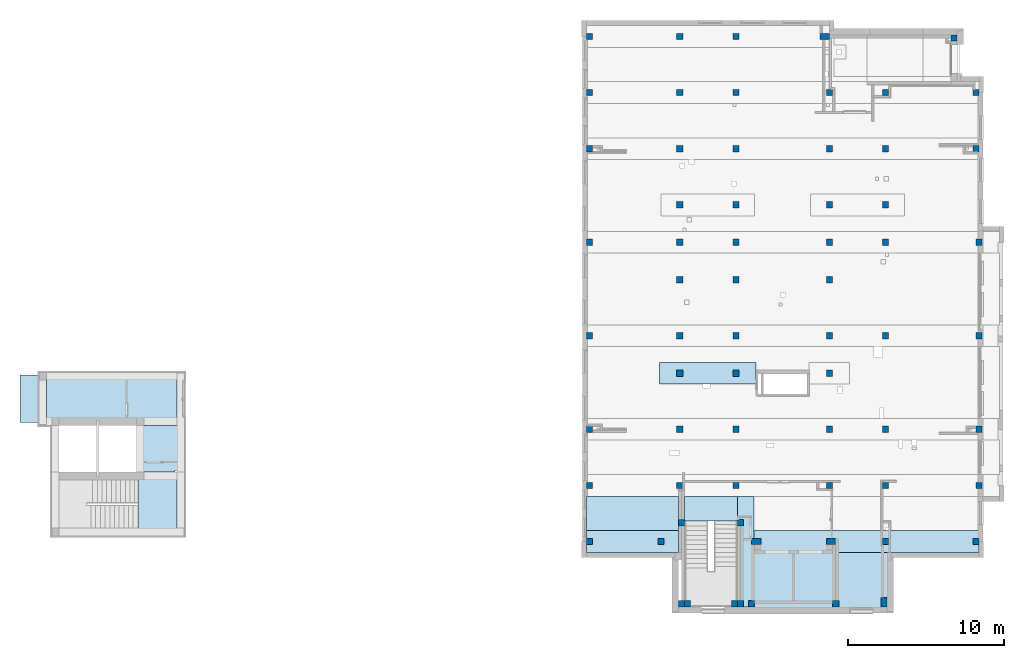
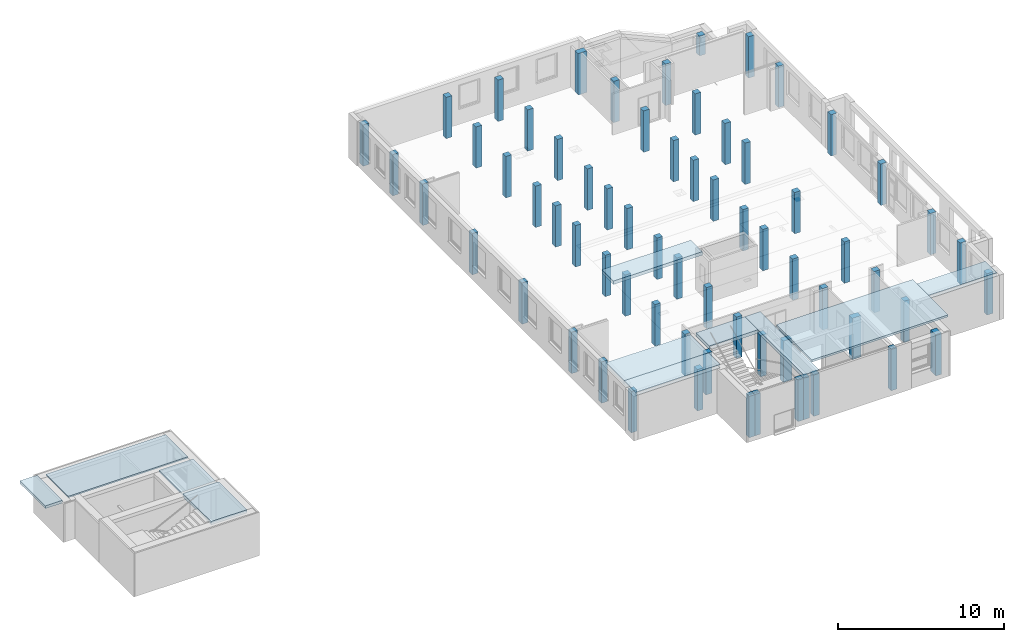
# One storey, part 1 of 27: 66 columns, 11 slabs, 1 opening.
"""IFC4 building model written with IfcOpenShell, lengths in metres."""

from ifc_helpers import new_model, entity, si_unit, converted_unit, derived_unit, frame, frame_2d, origin, origin_with_axes, place, context, subcontext, project, spatial, polyline, rectangle, outline, extrude, material, element, save


model = new_model("IFC4")

# Units and contexts
model_context = context("Model", 3, precision=1e-05, world=origin())
body_context = subcontext(model_context, "Body", "Model", "MODEL_VIEW")
ifc_project = project(units=[si_unit("LENGTHUNIT", "METRE"), si_unit("AREAUNIT", "SQUARE_METRE"), si_unit("VOLUMEUNIT", "CUBIC_METRE"), si_unit("MASSUNIT", "GRAM", prefix="KILO"), converted_unit("PLANEANGLEUNIT", "DEGREE", entity("IfcPlaneAngleMeasure", 0.0174532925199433), si_unit("PLANEANGLEUNIT", "RADIAN"), dimensions=[0, 0, 0, 0, 0, 0, 0]), derived_unit("THERMALTRANSMITTANCEUNIT", [(si_unit("POWERUNIT", "WATT"), 1), (si_unit("THERMODYNAMICTEMPERATUREUNIT", "KELVIN"), -1), (si_unit("LENGTHUNIT", "METRE"), -2)]), derived_unit("VOLUMETRICFLOWRATEUNIT", [(si_unit("LENGTHUNIT", "METRE"), 3), (converted_unit("TIMEUNIT", "hour", entity("IfcTimeMeasure", 3600.0), si_unit("TIMEUNIT", "SECOND"), dimensions=[0, 0, 1, 0, 0, 0, 0]), -1), (si_unit("LENGTHUNIT", "METRE"), -1)])], contexts=[model_context])

# Site, building, storey
site_placement = place(None, origin())
site = spatial("IfcSite", under=ifc_project, at=site_placement, Name="3. ASŘ", CompositionType="ELEMENT")
building_placement = place(site_placement, origin())
building = spatial("IfcBuilding", under=site, at=building_placement, Name="Pavilon C", CompositionType="ELEMENT")
storey_placement = place(building_placement, frame((0.0, 0.0, 10.5)))
storey = spatial("IfcBuildingStorey", under=building, at=storey_placement, Name="Půdorys 4.NP", CompositionType="ELEMENT", Elevation=10.5)

# Columns
ifc_material_1 = material(Name="ZELEZOBETONOVÁ KCE")
column_1_placement = place(storey_placement, frame((44.15, 25.4, -0.1)))
element("IfcColumn", 1, at=column_1_placement, inside=storey, material=ifc_material_1, PredefinedType="COLUMN", context=body_context, shape_type="SweptSolid", body=[
    extrude(rectangle(XDim=0.4, YDim=0.4, at=frame_2d((-0.2, -0.2), x_axis=(-1.0, 0.0))), origin_with_axes(), (0.0, 0.0, 1.0), 3.05),
])
ifc_material_2 = material(Name="ZELEZOBETONOVÁ KCE")
column_2_placement = place(storey_placement, frame((40.55, 25.4, -0.1)))
element("IfcColumn", 2, at=column_2_placement, inside=storey, material=ifc_material_2, PredefinedType="COLUMN", context=body_context, shape_type="SweptSolid", body=[
    extrude(rectangle(XDim=0.4, YDim=0.4, at=frame_2d((-0.2, -0.2), x_axis=(-1.0, 0.0))), origin_with_axes(), (0.0, 0.0, 1.0), 3.05),
])
ifc_material_3 = material(Name="ZELEZOBETONOVÁ KCE")
column_3_placement = place(storey_placement, frame((44.15, 19.4, -0.1)))
element("IfcColumn", 3, at=column_3_placement, inside=storey, material=ifc_material_3, PredefinedType="COLUMN", context=body_context, shape_type="SweptSolid", body=[
    extrude(rectangle(XDim=0.4, YDim=0.4, at=frame_2d((-0.2, -0.2), x_axis=(-1.0, 0.0))), origin_with_axes(), (0.0, 0.0, 1.0), 3.05),
])
ifc_material_4 = material(Name="ZELEZOBETONOVÁ KCE")
column_4_placement = place(storey_placement, frame((40.55, 19.4, -0.1)))
element("IfcColumn", 4, at=column_4_placement, inside=storey, material=ifc_material_4, PredefinedType="COLUMN", context=body_context, shape_type="SweptSolid", body=[
    extrude(rectangle(XDim=0.4, YDim=0.4, at=frame_2d((-0.2, -0.2), x_axis=(-1.0, 0.0))), origin_with_axes(), (0.0, 0.0, 1.0), 3.05),
])
ifc_material_5 = material(Name="ZELEZOBETONOVÁ KCE")
column_5_placement = place(storey_placement, frame((44.15, 13.4, -0.1)))
element("IfcColumn", 5, at=column_5_placement, inside=storey, material=ifc_material_5, PredefinedType="COLUMN", context=body_context, shape_type="SweptSolid", body=[
    extrude(rectangle(XDim=0.4, YDim=0.4, at=frame_2d((-0.2, -0.2), x_axis=(-1.0, 0.0))), origin_with_axes(), (0.0, 0.0, 1.0), 3.05),
])
ifc_material_6 = material(Name="ZELEZOBETONOVÁ KCE")
column_6_placement = place(storey_placement, frame((40.55, 13.4, -0.1)))
element("IfcColumn", 6, at=column_6_placement, inside=storey, material=ifc_material_6, PredefinedType="COLUMN", context=body_context, shape_type="SweptSolid", body=[
    extrude(rectangle(XDim=0.4, YDim=0.4, at=frame_2d((-0.2, -0.2), x_axis=(-1.0, 0.0))), origin_with_axes(), (0.0, 0.0, 1.0), 3.05),
])
ifc_material_7 = material(Name="ZELEZOBETONOVÁ KCE")
column_7_placement = place(storey_placement, frame((44.15, 7.39999999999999, -0.1)))
element("IfcColumn", 7, at=column_7_placement, inside=storey, material=ifc_material_7, PredefinedType="COLUMN", context=body_context, shape_type="SweptSolid", body=[
    extrude(rectangle(XDim=0.4, YDim=0.4, at=frame_2d((-0.2, -0.2), x_axis=(-1.0, 0.0))), origin_with_axes(), (0.0, 0.0, 1.0), 3.05),
])
ifc_material_8 = material(Name="ZELEZOBETONOVÁ KCE")
column_8_placement = place(storey_placement, frame((40.55, 7.39999999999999, -0.1)))
element("IfcColumn", 8, at=column_8_placement, inside=storey, material=ifc_material_8, PredefinedType="COLUMN", context=body_context, shape_type="SweptSolid", body=[
    extrude(rectangle(XDim=0.4, YDim=0.4, at=frame_2d((-0.2, -0.2), x_axis=(-1.0, 0.0))), origin_with_axes(), (0.0, 0.0, 1.0), 3.05),
])
ifc_material_9 = material(Name="ZELEZOBETONOVÁ KCE")
column_9_placement = place(storey_placement, frame((34.55, 7.4, -0.1)))
element("IfcColumn", 9, at=column_9_placement, inside=storey, material=ifc_material_9, PredefinedType="COLUMN", context=body_context, shape_type="SweptSolid", body=[
    extrude(rectangle(XDim=0.4, YDim=0.4, at=frame_2d((-0.2, -0.2), x_axis=(-1.0, 0.0))), origin_with_axes(), (0.0, 0.0, 1.0), 3.05),
])
ifc_material_10 = material(Name="ZELEZOBETONOVÁ KCE")
column_10_placement = place(storey_placement, frame((30.95, 7.4, -0.1)))
element("IfcColumn", 10, at=column_10_placement, inside=storey, material=ifc_material_10, PredefinedType="COLUMN", context=body_context, shape_type="SweptSolid", body=[
    extrude(rectangle(XDim=0.4, YDim=0.4, at=frame_2d((-0.2, -0.2), x_axis=(-1.0, 0.0))), origin_with_axes(), (0.0, 0.0, 1.0), 3.05),
])
ifc_material_11 = material(Name="ZELEZOBETONOVÁ KCE")
column_11_placement = place(storey_placement, frame((34.55, 13.4, -0.1)))
element("IfcColumn", 11, at=column_11_placement, inside=storey, material=ifc_material_11, PredefinedType="COLUMN", context=body_context, shape_type="SweptSolid", body=[
    extrude(rectangle(XDim=0.4, YDim=0.4, at=frame_2d((-0.2, -0.2), x_axis=(-1.0, 0.0))), origin_with_axes(), (0.0, 0.0, 1.0), 3.05),
])
ifc_material_12 = material(Name="ZELEZOBETONOVÁ KCE")
column_12_placement = place(storey_placement, frame((30.95, 13.4, -0.1)))
element("IfcColumn", 12, at=column_12_placement, inside=storey, material=ifc_material_12, PredefinedType="COLUMN", context=body_context, shape_type="SweptSolid", body=[
    extrude(rectangle(XDim=0.4, YDim=0.4, at=frame_2d((-0.2, -0.2), x_axis=(-1.0, 0.0))), origin_with_axes(), (0.0, 0.0, 1.0), 3.05),
])
ifc_material_13 = material(Name="ZELEZOBETONOVÁ KCE")
column_13_placement = place(storey_placement, frame((34.55, 19.4, -0.1)))
element("IfcColumn", 13, at=column_13_placement, inside=storey, material=ifc_material_13, PredefinedType="COLUMN", context=body_context, shape_type="SweptSolid", body=[
    extrude(rectangle(XDim=0.4, YDim=0.4, at=frame_2d((-0.2, -0.2), x_axis=(-1.0, 0.0))), origin_with_axes(), (0.0, 0.0, 1.0), 3.05),
])
ifc_material_14 = material(Name="ZELEZOBETONOVÁ KCE")
column_14_placement = place(storey_placement, frame((30.95, 19.4, -0.1)))
element("IfcColumn", 14, at=column_14_placement, inside=storey, material=ifc_material_14, PredefinedType="COLUMN", context=body_context, shape_type="SweptSolid", body=[
    extrude(rectangle(XDim=0.4, YDim=0.4, at=frame_2d((-0.2, -0.2), x_axis=(-1.0, 0.0))), origin_with_axes(), (0.0, 0.0, 1.0), 3.05),
])
ifc_material_15 = material(Name="ZELEZOBETONOVÁ KCE")
column_15_placement = place(storey_placement, frame((34.55, 25.4, -0.1)))
element("IfcColumn", 15, at=column_15_placement, inside=storey, material=ifc_material_15, PredefinedType="COLUMN", context=body_context, shape_type="SweptSolid", body=[
    extrude(rectangle(XDim=0.4, YDim=0.4, at=frame_2d((-0.2, -0.2), x_axis=(-1.0, 0.0))), origin_with_axes(), (0.0, 0.0, 1.0), 3.05),
])
ifc_material_16 = material(Name="ZELEZOBETONOVÁ KCE")
column_16_placement = place(storey_placement, frame((30.95, 25.4, -0.1)))
element("IfcColumn", 16, at=column_16_placement, inside=storey, material=ifc_material_16, PredefinedType="COLUMN", context=body_context, shape_type="SweptSolid", body=[
    extrude(rectangle(XDim=0.4, YDim=0.4, at=frame_2d((-0.2, -0.2), x_axis=(-1.0, 0.0))), origin_with_axes(), (0.0, 0.0, 1.0), 3.05),
])
ifc_material_17 = material(Name="ZELEZOBETONOVÁ KCE")
column_17_placement = place(storey_placement, frame((34.55, 29.0, -0.1)))
element("IfcColumn", 17, at=column_17_placement, inside=storey, material=ifc_material_17, PredefinedType="COLUMN", context=body_context, shape_type="SweptSolid", body=[
    extrude(rectangle(XDim=0.4, YDim=0.4, at=frame_2d((-0.2, -0.2), x_axis=(-1.0, 0.0))), origin_with_axes(), (0.0, 0.0, 1.0), 3.05),
])
ifc_material_18 = material(Name="ZELEZOBETONOVÁ KCE")
column_18_placement = place(storey_placement, frame((30.95, 29.0, -0.1)))
element("IfcColumn", 18, at=column_18_placement, inside=storey, material=ifc_material_18, PredefinedType="COLUMN", context=body_context, shape_type="SweptSolid", body=[
    extrude(rectangle(XDim=0.4, YDim=0.4, at=frame_2d((-0.2, -0.2), x_axis=(-1.0, 0.0))), origin_with_axes(), (0.0, 0.0, 1.0), 3.05),
])
ifc_material_19 = material(Name="ZELEZOBETONOVÁ KCE")
column_19_placement = place(storey_placement, frame((34.55, 32.6, -0.1)))
element("IfcColumn", 19, at=column_19_placement, inside=storey, material=ifc_material_19, PredefinedType="COLUMN", context=body_context, shape_type="SweptSolid", body=[
    extrude(rectangle(XDim=0.4, YDim=0.4, at=frame_2d((-0.2, -0.2), x_axis=(-1.0, 0.0))), origin_with_axes(), (0.0, 0.0, 1.0), 3.05),
])
ifc_material_20 = material(Name="ZELEZOBETONOVÁ KCE")
column_20_placement = place(storey_placement, frame((30.95, 32.6, -0.1)))
element("IfcColumn", 20, at=column_20_placement, inside=storey, material=ifc_material_20, PredefinedType="COLUMN", context=body_context, shape_type="SweptSolid", body=[
    extrude(rectangle(XDim=0.4, YDim=0.4, at=frame_2d((-0.2, -0.2), x_axis=(-1.0, 0.0))), origin_with_axes(), (0.0, 0.0, 1.0), 3.05),
])
ifc_material_21 = material(Name="ZELEZOBETONOVÁ KCE")
column_21_placement = place(storey_placement, frame((29.75, 0.199999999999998, -0.1)))
element("IfcColumn", 21, at=column_21_placement, inside=storey, material=ifc_material_21, PredefinedType="COLUMN", context=body_context, shape_type="SweptSolid", body=[
    extrude(rectangle(XDim=0.4, YDim=0.4, at=frame_2d((-0.2, -0.2), x_axis=(-1.0, 1.4210854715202e-16))), origin_with_axes(), (0.0, 0.0, 1.0), 3.05),
])
ifc_material_22 = material(Name="ZELEZOBETONOVÁ KCE")
column_22_placement = place(storey_placement, frame((30.95, 17.0, -0.1)))
element("IfcColumn", 22, at=column_22_placement, inside=storey, material=ifc_material_22, PredefinedType="COLUMN", context=body_context, shape_type="SweptSolid", body=[
    extrude(rectangle(XDim=0.4, YDim=0.4, at=frame_2d((-0.2, -0.2), x_axis=(-1.0, 0.0))), origin_with_axes(), (0.0, 0.0, 1.0), 3.05),
])
ifc_material_23 = material(Name="ZELEZOBETONOVÁ KCE")
column_23_placement = place(storey_placement, frame((30.95, 21.8, -0.1)))
element("IfcColumn", 23, at=column_23_placement, inside=storey, material=ifc_material_23, PredefinedType="COLUMN", context=body_context, shape_type="SweptSolid", body=[
    extrude(rectangle(XDim=0.4, YDim=0.4, at=frame_2d((-0.2, -0.2), x_axis=(-1.0, 0.0))), origin_with_axes(), (0.0, 0.0, 1.0), 3.05),
])
ifc_material_24 = material(Name="ZELEZOBETONOVÁ KCE")
column_24_placement = place(storey_placement, frame((34.55, 11.0, -0.1)))
element("IfcColumn", 24, at=column_24_placement, inside=storey, material=ifc_material_24, PredefinedType="COLUMN", context=body_context, shape_type="SweptSolid", body=[
    extrude(rectangle(XDim=0.4, YDim=0.4, at=frame_2d((-0.2, -0.2), x_axis=(-1.0, 0.0))), origin_with_axes(), (0.0, 0.0, 1.0), 3.05),
])
ifc_material_25 = material(Name="ZELEZOBETONOVÁ KCE")
column_25_placement = place(storey_placement, frame((34.55, 17.0, -0.1)))
element("IfcColumn", 25, at=column_25_placement, inside=storey, material=ifc_material_25, PredefinedType="COLUMN", context=body_context, shape_type="SweptSolid", body=[
    extrude(rectangle(XDim=0.4, YDim=0.4, at=frame_2d((-0.2, -0.2), x_axis=(-1.0, 0.0))), origin_with_axes(), (0.0, 0.0, 1.0), 3.05),
])
ifc_material_26 = material(Name="ZELEZOBETONOVÁ KCE")
column_26_placement = place(storey_placement, frame((34.55, 21.8, -0.1)))
element("IfcColumn", 26, at=column_26_placement, inside=storey, material=ifc_material_26, PredefinedType="COLUMN", context=body_context, shape_type="SweptSolid", body=[
    extrude(rectangle(XDim=0.4, YDim=0.4, at=frame_2d((-0.2, -0.2), x_axis=(-1.0, 0.0))), origin_with_axes(), (0.0, 0.0, 1.0), 3.05),
])
ifc_material_27 = material(Name="ZELEZOBETONOVÁ KCE")
column_27_placement = place(storey_placement, frame((40.55, 11.0, -0.1)))
element("IfcColumn", 27, at=column_27_placement, inside=storey, material=ifc_material_27, PredefinedType="COLUMN", context=body_context, shape_type="SweptSolid", body=[
    extrude(rectangle(XDim=0.4, YDim=0.4, at=frame_2d((-0.2, -0.2), x_axis=(-1.0, 0.0))), origin_with_axes(), (0.0, 0.0, 1.0), 3.05),
])
ifc_material_28 = material(Name="ZELEZOBETONOVÁ KCE")
column_28_placement = place(storey_placement, frame((40.55, 17.0, -0.1)))
element("IfcColumn", 28, at=column_28_placement, inside=storey, material=ifc_material_28, PredefinedType="COLUMN", context=body_context, shape_type="SweptSolid", body=[
    extrude(rectangle(XDim=0.4, YDim=0.4, at=frame_2d((-0.2, -0.2), x_axis=(-1.0, 0.0))), origin_with_axes(), (0.0, 0.0, 1.0), 3.05),
])
ifc_material_29 = material(Name="ZELEZOBETONOVÁ KCE")
column_29_placement = place(storey_placement, frame((40.55, 21.8, -0.1)))
element("IfcColumn", 29, at=column_29_placement, inside=storey, material=ifc_material_29, PredefinedType="COLUMN", context=body_context, shape_type="SweptSolid", body=[
    extrude(rectangle(XDim=0.4, YDim=0.4, at=frame_2d((-0.2, -0.2), x_axis=(-1.0, 0.0))), origin_with_axes(), (0.0, 0.0, 1.0), 3.05),
])
ifc_material_30 = material(Name="ZELEZOBETONOVÁ KCE")
column_30_placement = place(storey_placement, frame((44.15, 21.8, -0.1)))
element("IfcColumn", 30, at=column_30_placement, inside=storey, material=ifc_material_30, PredefinedType="COLUMN", context=body_context, shape_type="SweptSolid", body=[
    extrude(rectangle(XDim=0.4, YDim=0.4, at=frame_2d((-0.2, -0.2), x_axis=(-1.0, 0.0))), origin_with_axes(), (0.0, 0.0, 1.0), 3.05),
])
ifc_material_31 = material(Name="ZELEZOBETONOVÁ KCE")
column_31_placement = place(storey_placement, frame((30.95, 11.0, -0.1)))
element("IfcColumn", 31, at=column_31_placement, inside=storey, material=ifc_material_31, PredefinedType="COLUMN", context=body_context, shape_type="SweptSolid", body=[
    extrude(rectangle(XDim=0.4, YDim=0.4, at=frame_2d((-0.2, -0.2), x_axis=(-1.0, 0.0))), origin_with_axes(), (0.0, 0.0, 1.0), 3.05),
])
ifc_material_32 = material(Name="ZELEZOBETONOVÁ KCE")
column_32_placement = place(storey_placement, frame((40.55, 29.0, -0.1)))
element("IfcColumn", 32, at=column_32_placement, inside=storey, material=ifc_material_32, PredefinedType="COLUMN", context=body_context, shape_type="SweptSolid", body=[
    extrude(rectangle(XDim=0.4, YDim=0.4, at=frame_2d((-0.2, -0.2), x_axis=(-1.0, 0.0))), origin_with_axes(), (0.0, 0.0, 1.0), 3.05),
])
ifc_material_33 = material(Name="ZELEZOBETONOVÁ KCE")
column_33_placement = place(storey_placement, frame((49.95, 0.19999999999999, -0.1)))
element("IfcColumn", 33, at=column_33_placement, inside=storey, material=ifc_material_33, PredefinedType="COLUMN", context=body_context, shape_type="SweptSolid", body=[
    extrude(rectangle(XDim=0.4, YDim=0.4, at=frame_2d((-0.2, -0.2), x_axis=(-1.0, 7.105427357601e-17))), origin_with_axes(), (0.0, 0.0, 1.0), 3.05),
])
ifc_material_34 = material(Name="ZELEZOBETONOVÁ KCE")
column_34_placement = place(storey_placement, frame((49.95, 29.0, -0.1)))
element("IfcColumn", 34, at=column_34_placement, inside=storey, material=ifc_material_34, PredefinedType="COLUMN", context=body_context, shape_type="SweptSolid", body=[
    extrude(rectangle(XDim=0.4, YDim=0.4, at=frame_2d((-0.2, -0.2), x_axis=(-1.0, 0.0))), origin_with_axes(), (0.0, 0.0, 1.0), 3.05),
])
ifc_material_35 = material(Name="ZELEZOBETONOVÁ KCE")
column_35_placement = place(storey_placement, frame((30.95, 3.8, -0.1)))
element("IfcColumn", 35, at=column_35_placement, inside=storey, material=ifc_material_35, PredefinedType="COLUMN", context=body_context, shape_type="SweptSolid", body=[
    extrude(rectangle(XDim=0.4, YDim=0.4, at=frame_2d((-0.2, -0.2), x_axis=(-1.0, 0.0))), origin_with_axes(), (0.0, 0.0, 1.0), 3.05),
])
ifc_material_36 = material(Name="ZELEZOBETONOVÁ KCE")
column_36_placement = place(storey_placement, frame((34.55, 3.8, -0.1)))
element("IfcColumn", 36, at=column_36_placement, inside=storey, material=ifc_material_36, PredefinedType="COLUMN", context=body_context, shape_type="SweptSolid", body=[
    extrude(rectangle(XDim=0.4, YDim=0.4, at=frame_2d((-0.2, -0.2), x_axis=(-1.0, 0.0))), origin_with_axes(), (0.0, 0.0, 1.0), 3.05),
])
ifc_material_37 = material(Name="ZELEZOBETONOVÁ KCE")
column_37_placement = place(storey_placement, frame((40.55, 3.79999999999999, -0.1)))
element("IfcColumn", 37, at=column_37_placement, inside=storey, material=ifc_material_37, PredefinedType="COLUMN", context=body_context, shape_type="SweptSolid", body=[
    extrude(rectangle(XDim=0.4, YDim=0.4, at=frame_2d((-0.2, -0.2), x_axis=(-1.0, 0.0))), origin_with_axes(), (0.0, 0.0, 1.0), 3.05),
])
ifc_material_38 = material(Name="ZELEZOBETONOVÁ KCE")
column_38_placement = place(storey_placement, frame((44.15, 3.79999999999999, -0.1)))
element("IfcColumn", 38, at=column_38_placement, inside=storey, material=ifc_material_38, PredefinedType="COLUMN", context=body_context, shape_type="SweptSolid", body=[
    extrude(rectangle(XDim=0.4, YDim=0.4, at=frame_2d((-0.2, -0.2), x_axis=(-1.0, 0.0))), origin_with_axes(), (0.0, 0.0, 1.0), 3.05),
])
ifc_material_39 = material(Name="ZELEZOBETONOVÁ KCE")
column_39_placement = place(storey_placement, frame((40.35, 32.6, -0.1)))
element("IfcColumn", 39, at=column_39_placement, inside=storey, material=ifc_material_39, PredefinedType="COLUMN", context=body_context, shape_type="SweptSolid", body=[
    extrude(rectangle(XDim=0.599999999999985, YDim=0.4, at=frame_2d((-0.299999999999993, -0.2), x_axis=(-1.0, 0.0))), origin_with_axes(), (0.0, 0.0, 1.0), 3.05),
])
ifc_material_40 = material(Name="ZELEZOBETONOVÁ KCE")
column_40_placement = place(storey_placement, frame((35.95, 0.199999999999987, -0.1)))
element("IfcColumn", 40, at=column_40_placement, inside=storey, material=ifc_material_40, PredefinedType="COLUMN", context=body_context, shape_type="SweptSolid", body=[
    extrude(rectangle(XDim=0.6, YDim=0.4, at=frame_2d((-0.3, -0.2), x_axis=(-1.0, 0.0))), origin_with_axes(), (0.0, 0.0, 1.0), 3.05),
])
ifc_material_41 = material(Name="ZELEZOBETONOVÁ KCE")
column_41_placement = place(storey_placement, frame((40.75, 0.199999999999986, -0.1)))
element("IfcColumn", 41, at=column_41_placement, inside=storey, material=ifc_material_41, PredefinedType="COLUMN", context=body_context, shape_type="SweptSolid", body=[
    extrude(rectangle(XDim=0.6, YDim=0.4, at=frame_2d((-0.3, -0.2), x_axis=(-1.0, 0.0))), origin_with_axes(), (0.0, 0.0, 1.0), 3.05),
])
ifc_material_42 = material(Name="ZELEZOBETONOVÁ KCE")
column_42_placement = place(storey_placement, frame((44.15, 0.19999999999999, -0.1)))
element("IfcColumn", 42, at=column_42_placement, inside=storey, material=ifc_material_42, PredefinedType="COLUMN", context=body_context, shape_type="SweptSolid", body=[
    extrude(rectangle(XDim=0.4, YDim=0.4, at=frame_2d((-0.2, -0.2), x_axis=(-1.0, 1.4210854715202e-16))), origin_with_axes(), (0.0, 0.0, 1.0), 3.05),
])
ifc_material_43 = material(Name="ZELEZOBETONOVÁ KCE")
column_43_placement = place(storey_placement, frame((31.05, 1.4, -0.1)))
element("IfcColumn", 43, at=column_43_placement, inside=storey, material=ifc_material_43, PredefinedType="COLUMN", context=body_context, shape_type="SweptSolid", body=[
    extrude(rectangle(XDim=0.4, YDim=0.4, at=frame_2d((-0.2, -0.2), x_axis=(-1.0, 0.0))), origin_with_axes(), (0.0, 0.0, 1.0), 3.05),
])
ifc_material_44 = material(Name="ZELEZOBETONOVÁ KCE")
column_44_placement = place(storey_placement, frame((34.85, 1.4, -0.1)))
element("IfcColumn", 44, at=column_44_placement, inside=storey, material=ifc_material_44, PredefinedType="COLUMN", context=body_context, shape_type="SweptSolid", body=[
    extrude(rectangle(XDim=0.4, YDim=0.4, at=frame_2d((-0.2, -0.2), x_axis=(-1.0, 0.0))), origin_with_axes(), (0.0, 0.0, 1.0), 3.05),
])
ifc_material_45 = material(Name="ZELEZOBETONOVÁ KCE")
column_45_placement = place(storey_placement, frame((43.65, -3.6, -0.1)))
element("IfcColumn", 45, at=column_45_placement, inside=storey, material=ifc_material_45, PredefinedType="COLUMN", context=body_context, shape_type="SweptSolid", body=[
    extrude(rectangle(XDim=0.6, YDim=0.4, at=frame_2d((0.2, -0.3), x_axis=(0.0, -1.0))), origin_with_axes(), (0.0, 0.0, 1.0), 3.05),
])
ifc_material_46 = material(Name="ZELEZOBETONOVÁ KCE")
column_46_placement = place(storey_placement, frame((35.55, -3.8, -0.1)))
element("IfcColumn", 46, at=column_46_placement, inside=storey, material=ifc_material_46, PredefinedType="COLUMN", context=body_context, shape_type="SweptSolid", body=[
    extrude(rectangle(XDim=0.4, YDim=0.4, at=frame_2d((-0.2, -0.2), x_axis=(-1.0, 1.13686837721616e-15))), origin_with_axes(), (0.0, 0.0, 1.0), 3.05),
])
ifc_material_47 = material(Name="ZELEZOBETONOVÁ KCE")
column_47_placement = place(storey_placement, frame((34.85, -3.79999999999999, -0.1)))
element("IfcColumn", 47, at=column_47_placement, inside=storey, material=ifc_material_47, PredefinedType="COLUMN", context=body_context, shape_type="SweptSolid", body=[
    extrude(rectangle(XDim=0.4, YDim=0.4, at=frame_2d((-0.2, -0.2), x_axis=(-1.0, 1.13686837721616e-15))), origin_with_axes(), (0.0, 0.0, 1.0), 3.05),
])
ifc_material_48 = material(Name="ZELEZOBETONOVÁ KCE")
column_48_placement = place(storey_placement, frame((34.45, -3.79999999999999, -0.1)))
element("IfcColumn", 48, at=column_48_placement, inside=storey, material=ifc_material_48, PredefinedType="COLUMN", context=body_context, shape_type="SweptSolid", body=[
    extrude(rectangle(XDim=0.4, YDim=0.4, at=frame_2d((-0.2, -0.2), x_axis=(-1.0, 1.13686837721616e-15))), origin_with_axes(), (0.0, 0.0, 1.0), 3.05),
])
ifc_material_49 = material(Name="ZELEZOBETONOVÁ KCE")
column_49_placement = place(storey_placement, frame((40.95, -3.80000000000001, -0.1)))
element("IfcColumn", 49, at=column_49_placement, inside=storey, material=ifc_material_49, PredefinedType="COLUMN", context=body_context, shape_type="SweptSolid", body=[
    extrude(rectangle(XDim=0.4, YDim=0.399999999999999, at=frame_2d((-0.2, -0.2), x_axis=(-1.0, 0.0))), origin_with_axes(), (0.0, 0.0, 1.0), 3.05),
])
ifc_material_50 = material(Name="ZELEZOBETONOVÁ KCE")
column_50_placement = place(storey_placement, frame((31.45, -3.8, -0.1)))
element("IfcColumn", 50, at=column_50_placement, inside=storey, material=ifc_material_50, PredefinedType="COLUMN", context=body_context, shape_type="SweptSolid", body=[
    extrude(rectangle(XDim=0.4, YDim=0.4, at=frame_2d((-0.2, -0.2), x_axis=(-1.0, 1.13686837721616e-15))), origin_with_axes(), (0.0, 0.0, 1.0), 3.05),
])
ifc_material_51 = material(Name="ZELEZOBETONOVÁ KCE")
column_51_placement = place(storey_placement, frame((31.05, -3.79999999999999, -0.1)))
element("IfcColumn", 51, at=column_51_placement, inside=storey, material=ifc_material_51, PredefinedType="COLUMN", context=body_context, shape_type="SweptSolid", body=[
    extrude(rectangle(XDim=0.4, YDim=0.4, at=frame_2d((-0.2, -0.2), x_axis=(-1.0, 1.13686837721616e-15))), origin_with_axes(), (0.0, 0.0, 1.0), 3.05),
])
ifc_material_52 = material(Name="ZELEZOBETONOVÁ KCE")
column_52_placement = place(storey_placement, frame((48.55, 32.5, -0.1)))
element("IfcColumn", 52, at=column_52_placement, inside=storey, material=ifc_material_52, PredefinedType="COLUMN", context=body_context, shape_type="SweptSolid", body=[
    extrude(rectangle(XDim=0.4, YDim=0.4, at=frame_2d((-0.2, -0.2), x_axis=(-1.0, 0.0))), origin_with_axes(), (0.0, 0.0, 1.0), 1.45),
])
ifc_material_53 = material(Name="ZELEZOBETONOVÁ KCE")
column_53_placement = place(storey_placement, frame((44.15, 29.0, -0.1)))
element("IfcColumn", 53, at=column_53_placement, inside=storey, material=ifc_material_53, PredefinedType="COLUMN", context=body_context, shape_type="SweptSolid", body=[
    extrude(rectangle(XDim=0.4, YDim=0.4, at=frame_2d((-0.2, -0.2), x_axis=(-1.0, 0.0))), origin_with_axes(), (0.0, 0.0, 1.0), 3.05),
])
ifc_material_54 = material(Name="ZELEZOBETONOVÁ KCE")
column_54_placement = place(storey_placement, frame((25.15, 32.6, -0.1)))
element("IfcColumn", 54, at=column_54_placement, inside=storey, material=ifc_material_54, PredefinedType="COLUMN", context=body_context, shape_type="SweptSolid", body=[
    extrude(rectangle(XDim=0.399999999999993, YDim=0.4, at=frame_2d((-0.199999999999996, -0.2), x_axis=(-1.0, 0.0))), origin_with_axes(), (0.0, 0.0, 1.0), 3.05),
])
ifc_material_55 = material(Name="ZELEZOBETONOVÁ KCE")
column_55_placement = place(storey_placement, frame((25.15, 13.4, -0.1)))
element("IfcColumn", 55, at=column_55_placement, inside=storey, material=ifc_material_55, PredefinedType="COLUMN", context=body_context, shape_type="SweptSolid", body=[
    extrude(rectangle(XDim=0.4, YDim=0.4, at=frame_2d((-0.2, -0.2), x_axis=(-1.0, 0.0))), origin_with_axes(), (0.0, 0.0, 1.0), 3.05),
])
ifc_material_56 = material(Name="ZELEZOBETONOVÁ KCE")
column_56_placement = place(storey_placement, frame((25.15, 3.8, -0.1)))
element("IfcColumn", 56, at=column_56_placement, inside=storey, material=ifc_material_56, PredefinedType="COLUMN", context=body_context, shape_type="SweptSolid", body=[
    extrude(rectangle(XDim=0.4, YDim=0.4, at=frame_2d((-0.2, -0.2), x_axis=(-1.0, 0.0))), origin_with_axes(), (0.0, 0.0, 1.0), 3.05),
])
ifc_material_57 = material(Name="ZELEZOBETONOVÁ KCE")
column_57_placement = place(storey_placement, frame((25.15, 0.199999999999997, -0.1)))
element("IfcColumn", 57, at=column_57_placement, inside=storey, material=ifc_material_57, PredefinedType="COLUMN", context=body_context, shape_type="SweptSolid", body=[
    extrude(rectangle(XDim=0.4, YDim=0.4, at=frame_2d((-0.2, -0.2), x_axis=(-1.0, 1.4210854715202e-16))), origin_with_axes(), (0.0, 0.0, 1.0), 3.05),
])
ifc_material_58 = material(Name="ZELEZOBETONOVÁ KCE")
column_58_placement = place(storey_placement, frame((25.15, 19.4, -0.1)))
element("IfcColumn", 58, at=column_58_placement, inside=storey, material=ifc_material_58, PredefinedType="COLUMN", context=body_context, shape_type="SweptSolid", body=[
    extrude(rectangle(XDim=0.4, YDim=0.4, at=frame_2d((-0.2, -0.2), x_axis=(-1.0, 0.0))), origin_with_axes(), (0.0, 0.0, 1.0), 3.05),
])
ifc_material_59 = material(Name="ZELEZOBETONOVÁ KCE")
column_59_placement = place(storey_placement, frame((25.15, 29.0, -0.1)))
element("IfcColumn", 59, at=column_59_placement, inside=storey, material=ifc_material_59, PredefinedType="COLUMN", context=body_context, shape_type="SweptSolid", body=[
    extrude(rectangle(XDim=0.400000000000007, YDim=0.4, at=frame_2d((-0.200000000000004, -0.2), x_axis=(-1.0, 0.0))), origin_with_axes(), (0.0, 0.0, 1.0), 3.05),
])
ifc_material_60 = material(Name="ZELEZOBETONOVÁ KCE")
column_60_placement = place(storey_placement, frame((25.15, 25.4, -0.1)))
element("IfcColumn", 60, at=column_60_placement, inside=storey, material=ifc_material_60, PredefinedType="COLUMN", context=body_context, shape_type="SweptSolid", body=[
    extrude(rectangle(XDim=0.4, YDim=0.4, at=frame_2d((-0.2, -0.2), x_axis=(-1.0, 0.0))), origin_with_axes(), (0.0, 0.0, 1.0), 3.05),
])
ifc_material_61 = material(Name="ZELEZOBETONOVÁ KCE")
column_61_placement = place(storey_placement, frame((49.95, 25.4, -0.1)))
element("IfcColumn", 61, at=column_61_placement, inside=storey, material=ifc_material_61, PredefinedType="COLUMN", context=body_context, shape_type="SweptSolid", body=[
    extrude(rectangle(XDim=0.4, YDim=0.4, at=frame_2d((-0.2, -0.2), x_axis=(-1.0, 0.0))), origin_with_axes(), (0.0, 0.0, 1.0), 3.05),
])
ifc_material_62 = material(Name="ZELEZOBETONOVÁ KCE")
column_62_placement = place(storey_placement, frame((50.15, 3.79999999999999, -0.1)))
element("IfcColumn", 62, at=column_62_placement, inside=storey, material=ifc_material_62, PredefinedType="COLUMN", context=body_context, shape_type="SweptSolid", body=[
    extrude(rectangle(XDim=0.4, YDim=0.4, at=frame_2d((-0.2, -0.2), x_axis=(-1.0, 1.13686837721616e-15))), origin_with_axes(), (0.0, 0.0, 1.0), 3.05),
])
ifc_material_63 = material(Name="ZELEZOBETONOVÁ KCE")
column_63_placement = place(storey_placement, frame((50.15, 13.4, -0.1)))
element("IfcColumn", 63, at=column_63_placement, inside=storey, material=ifc_material_63, PredefinedType="COLUMN", context=body_context, shape_type="SweptSolid", body=[
    extrude(rectangle(XDim=0.4, YDim=0.4, at=frame_2d((-0.2, -0.2), x_axis=(-1.0, 0.0))), origin_with_axes(), (0.0, 0.0, 1.0), 3.05),
])
ifc_material_64 = material(Name="ZELEZOBETONOVÁ KCE")
column_64_placement = place(storey_placement, frame((50.15, 19.4, -0.1)))
element("IfcColumn", 64, at=column_64_placement, inside=storey, material=ifc_material_64, PredefinedType="COLUMN", context=body_context, shape_type="SweptSolid", body=[
    extrude(rectangle(XDim=0.4, YDim=0.4, at=frame_2d((-0.2, -0.2), x_axis=(-1.0, 0.0))), origin_with_axes(), (0.0, 0.0, 1.0), 3.05),
])
ifc_material_65 = material(Name="ZELEZOBETONOVÁ KCE")
column_65_placement = place(storey_placement, frame((50.15, 7.39999999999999, -0.1)))
element("IfcColumn", 65, at=column_65_placement, inside=storey, material=ifc_material_65, PredefinedType="COLUMN", context=body_context, shape_type="SweptSolid", body=[
    extrude(rectangle(XDim=0.4, YDim=0.4, at=frame_2d((-0.2, -0.2), x_axis=(-1.0, 0.0))), origin_with_axes(), (0.0, 0.0, 1.0), 3.05),
])
ifc_material_66 = material(Name="ZELEZOBETONOVÁ KCE")
column_66_placement = place(storey_placement, frame((25.15, 7.4, -0.1)))
element("IfcColumn", 66, at=column_66_placement, inside=storey, material=ifc_material_66, PredefinedType="COLUMN", context=body_context, shape_type="SweptSolid", body=[
    extrude(rectangle(XDim=0.4, YDim=0.4, at=frame_2d((-0.2, -0.2), x_axis=(-1.0, 0.0))), origin_with_axes(), (0.0, 0.0, 1.0), 3.05),
])

# Slabs
ifc_material_67 = material(Name="RZT")
slab_1_placement = place(storey_placement, frame((29.45, 10.1, 2.95)))
element("IfcSlab", 67, at=slab_1_placement, inside=storey, material=ifc_material_67, PredefinedType="FLOOR", context=body_context, shape_type="SweptSolid", body=[
    extrude(rectangle(XDim=1.4, YDim=6.2, at=frame_2d((-3.1, 0.7), x_axis=(0.0, 1.0))), frame((6.2, 0.0, 0.0), z_axis=(0.0, 0.0, 1.0), x_axis=(1.0, 0.0, 0.0)), (0.0, 0.0, 1.0), 0.25),
])
ifc_material_68 = material(Name="DZH")
slab_2_placement = place(storey_placement, frame((31.05, 1.3001, 2.95)))
element("IfcSlab", 68, at=slab_2_placement, inside=storey, material=ifc_material_68, PredefinedType="FLOOR", context=body_context, shape_type="SweptSolid", body=[
    extrude(rectangle(XDim=1.5999, YDim=3.39999999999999, at=frame_2d((-1.69999999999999, 0.799949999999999), x_axis=(0.0, 1.0))), frame((3.39999999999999, 0.0, 0.0), z_axis=(0.0, 0.0, 1.0), x_axis=(1.0, 0.0, 0.0)), (0.0, 0.0, 1.0), 0.25),
])
ifc_material_69 = material(Name="PZD")
slab_3_placement = place(storey_placement, frame((24.75, 0.699999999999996, 2.95)))
element("IfcSlab", 69, at=slab_3_placement, inside=storey, material=ifc_material_69, PredefinedType="FLOOR", context=body_context, shape_type="SweptSolid", body=[
    extrude(rectangle(XDim=2.2, YDim=5.9, at=frame_2d((2.95, -1.1), x_axis=(0.0, -1.0))), frame((0.0, 2.2, 0.0), z_axis=(0.0, 0.0, 1.0), x_axis=(1.0, 0.0, 0.0)), (0.0, 0.0, 1.0), 0.25),
])
ifc_material_70 = material(Name="RZT")
slab_4_placement = place(storey_placement, frame((24.75, -0.700000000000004, 2.95)))
element("IfcSlab", 70, at=slab_4_placement, inside=storey, material=ifc_material_70, PredefinedType="FLOOR", context=body_context, shape_type="SweptSolid", body=[
    extrude(rectangle(XDim=1.4, YDim=5.9, at=frame_2d((-2.95, 0.700000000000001), x_axis=(0.0, 1.0))), frame((5.9, 0.0, 0.0), z_axis=(0.0, 0.0, 1.0), x_axis=(1.0, 0.0, 0.0)), (0.0, 0.0, 1.0), 0.25),
])
ifc_material_71 = material(Name="ZELEZOBETONOVÁ KCE")
slab_5_placement = place(storey_placement, frame((34.85, -4.5, 4.2)))
element("IfcSlab", 71, at=slab_5_placement, inside=storey, material=ifc_material_71, PredefinedType="FLOOR", context=body_context, shape_type="SweptSolid", body=[
    extrude(rectangle(XDim=9.50000000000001, YDim=4.29999999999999, at=frame_2d((4.75000000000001, 2.15), x_axis=(1.0, 0.0))), origin_with_axes(), (0.0, 0.0, 1.0), 0.15),
])
ifc_material_72 = material(Name="RZT")
slab_6_placement = place(storey_placement, frame((35.52, -0.700000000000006, 2.95)))
element("IfcSlab", 72, at=slab_6_placement, inside=storey, material=ifc_material_72, PredefinedType="FLOOR", context=body_context, shape_type="SweptSolid", body=[
    extrude(rectangle(XDim=1.4, YDim=14.43, at=frame_2d((-7.215, 0.700000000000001), x_axis=(0.0, 1.0))), frame((14.43, 0.0, 0.0), z_axis=(0.0, 0.0, 1.0), x_axis=(1.0, 0.0, 0.0)), (0.0, 0.0, 1.0), 0.25),
])
ifc_material_73 = material(Name="VĚNEC")
slab_7_placement = place(storey_placement, frame((34.45, -4.19999999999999, 2.95)))
element("IfcSlab", 73, at=slab_7_placement, inside=storey, material=ifc_material_73, PredefinedType="FLOOR", context=body_context, shape_type="SweptSolid", body=[
    extrude(rectangle(XDim=7.09999999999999, YDim=1.07, at=frame_2d((-0.535, 3.55), x_axis=(0.0, 1.0))), frame((1.07, 0.0, 0.0), z_axis=(0.0, 0.0, 1.0), x_axis=(1.0, 0.0, 0.0)), (0.0, 0.0, 1.0), 0.25),
])
ifc_material_74 = material(Name="ZELEZOBETONOVÁ KCE")
slab_8_placement = place(storey_placement, frame((-4.0249, 0.700000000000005, 2.65)))
element("IfcSlab", 74, at=slab_8_placement, inside=storey, material=ifc_material_74, PredefinedType="FLOOR", context=body_context, shape_type="SweptSolid", body=[
    extrude(rectangle(XDim=2.4999, YDim=3.4, at=frame_2d((1.24995, 1.7), x_axis=(1.0, 0.0))), origin_with_axes(), (0.0, 0.0, 1.0), 0.25),
])
ifc_material_75 = material(Name="PZD")
slab_9_placement = place(storey_placement, frame((-9.87499999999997, 7.8, 2.4)))
element("IfcSlab", 75, at=slab_9_placement, inside=storey, material=ifc_material_75, PredefinedType="FLOOR", context=body_context, shape_type="SweptSolid", body=[
    extrude(outline(polyline([(8.34999999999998, 2.70000000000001), (0.0, 2.70000000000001), (0.0, 0.0), (6.09999999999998, 7.27595761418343e-15), (8.34999999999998, 0.0), (8.34999999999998, 2.70000000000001)])), origin_with_axes(), (0.0, 0.0, 1.0), 0.1),
])

# Slab, opening
ifc_material_76 = material(Name="PZD")
slab_10_placement = place(storey_placement, frame((-3.77499999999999, 4.45, 2.4)))
slab_10 = element("IfcSlab", 76, at=slab_10_placement, inside=storey, material=ifc_material_76, PredefinedType="FLOOR", context=body_context, shape_type="SweptSolid", body=[
    extrude(rectangle(XDim=3.0, YDim=2.4, at=frame_2d((-1.2, 1.5), x_axis=(0.0, 1.0))), frame((2.4, 0.0, 0.0), z_axis=(0.0, 0.0, 1.0), x_axis=(1.0, 0.0, 0.0)), (0.0, 0.0, 1.0), 0.1),
])
opening_placement = place(slab_10_placement, frame((2.15, 0.0, 0.0)))
element("IfcOpeningElement", 77, at=opening_placement, cuts=slab_10, Name="Prostup deskou", ObjectType="Opening", context=body_context, shape_type="SweptSolid", body=[
    extrude(rectangle(XDim=0.1, YDim=0.1, at=frame_2d((0.0, 0.0), x_axis=(0.0, -1.0))), frame((0.05, 0.05, 0.0), z_axis=(0.0, 0.0, 1.0), x_axis=(1.0, 0.0, 0.0)), (0.0, 0.0, 1.0), 0.1),
])

# Slab
ifc_material_77 = material(Name="ZELEZOBETONOVÁ KCE")
slab_11_placement = place(storey_placement, frame((-11.585, 7.62, 2.3)))
element("IfcSlab", 78, at=slab_11_placement, inside=storey, material=ifc_material_77, PredefinedType="FLOOR", context=body_context, shape_type="SweptSolid", body=[
    extrude(rectangle(XDim=3.06, YDim=1.21, at=frame_2d((0.605, -1.53), x_axis=(0.0, -1.0))), frame((0.0, 3.06, 0.0), z_axis=(0.0, 0.0, 1.0), x_axis=(1.0, 0.0, 0.0)), (0.0, 0.0, 1.0), 0.2),
])

save(model, "model.ifc")
